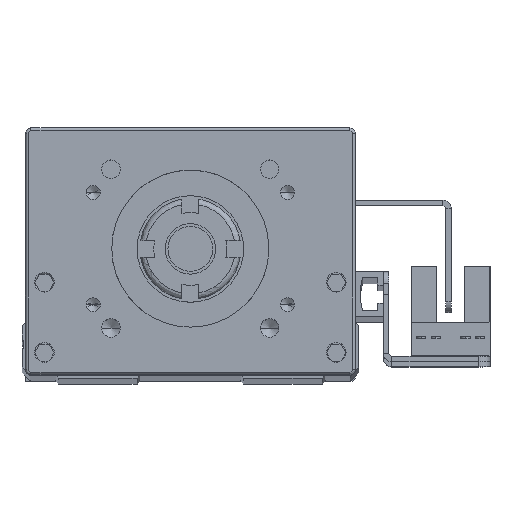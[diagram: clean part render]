
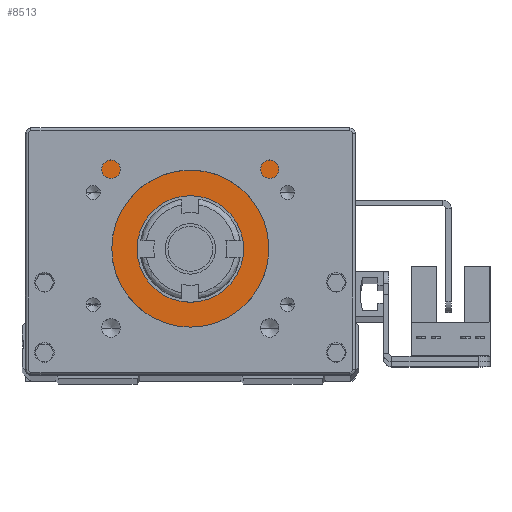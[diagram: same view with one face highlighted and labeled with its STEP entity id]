
A CAD part, top view. The second image highlights one B-rep face of the part: STEP entity #8513.
In plain terms, the highlighted planar face has unit normal (0, 0, 1).
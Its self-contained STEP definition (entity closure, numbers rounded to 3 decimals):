
#649 = LINE ( 'NONE', #52066, #49646 ) ;
#1393 = CARTESIAN_POINT ( 'NONE',  ( 52.335, 44.398, 318.5 ) ) ;
#1461 = EDGE_CURVE ( 'NONE', #10539, #36772, #36686, .T. ) ;
#1863 = DIRECTION ( 'NONE',  ( 0., 1., 0. ) ) ;
#2044 = ORIENTED_EDGE ( 'NONE', *, *, #5704, .F. ) ;
#2509 = FACE_OUTER_BOUND ( 'NONE', #26913, .T. ) ;
#2976 = LINE ( 'NONE', #52385, #49656 ) ;
#4525 = DIRECTION ( 'NONE',  ( -1., 0., 0. ) ) ;
#4591 = DIRECTION ( 'NONE',  ( 0., 0., 1. ) ) ;
#4670 = ORIENTED_EDGE ( 'NONE', *, *, #9805, .F. ) ;
#4742 = CIRCLE ( 'NONE', #45211, 9.5 ) ;
#5190 = DIRECTION ( 'NONE',  ( -1., 0., 0. ) ) ;
#5428 = VERTEX_POINT ( 'NONE', #40417 ) ;
#5527 = AXIS2_PLACEMENT_3D ( 'NONE', #59583, #17225, #59998 ) ;
#5704 = EDGE_CURVE ( 'NONE', #15843, #42215, #6033, .T. ) ;
#6033 = CIRCLE ( 'NONE', #29118, 9.5 ) ;
#6829 = DIRECTION ( 'NONE',  ( 0., 0., 1. ) ) ;
#7477 = AXIS2_PLACEMENT_3D ( 'NONE', #50338, #6829, #55022 ) ;
#7778 = EDGE_CURVE ( 'NONE', #18227, #46656, #16259, .T. ) ;
#8498 = CARTESIAN_POINT ( 'NONE',  ( 51.735, 12.398, 318.5 ) ) ;
#8513 = ADVANCED_FACE ( 'NONE', ( #23600, #2509 ), #60740, .F. ) ;
#9185 = CARTESIAN_POINT ( 'NONE',  ( 22.835, 23.898, 318.5 ) ) ;
#9338 = CARTESIAN_POINT ( 'NONE',  ( 32.335, 23.898, 318.5 ) ) ;
#9805 = EDGE_CURVE ( 'NONE', #38649, #5428, #48400, .T. ) ;
#9882 = ORIENTED_EDGE ( 'NONE', *, *, #34350, .T. ) ;
#10539 = VERTEX_POINT ( 'NONE', #45950 ) ;
#10772 = CARTESIAN_POINT ( 'NONE',  ( 52.335, 12.398, 318.5 ) ) ;
#10819 = CARTESIAN_POINT ( 'NONE',  ( 12.935, 12.398, 318.5 ) ) ;
#11377 = LINE ( 'NONE', #50419, #41500 ) ;
#11610 = ORIENTED_EDGE ( 'NONE', *, *, #31076, .T. ) ;
#12002 = LINE ( 'NONE', #48444, #24820 ) ;
#12902 = ORIENTED_EDGE ( 'NONE', *, *, #52766, .F. ) ;
#13657 = DIRECTION ( 'NONE',  ( 0., 1., 0. ) ) ;
#13875 = VECTOR ( 'NONE', #5190, 1000. ) ;
#14064 = VERTEX_POINT ( 'NONE', #36617 ) ;
#14204 = EDGE_CURVE ( 'NONE', #19430, #5428, #2976, .T. ) ;
#14991 = CARTESIAN_POINT ( 'NONE',  ( 11.335, 45.398, 318.5 ) ) ;
#15843 = VERTEX_POINT ( 'NONE', #9185 ) ;
#16259 = CIRCLE ( 'NONE', #55521, 1. ) ;
#16910 = CARTESIAN_POINT ( 'NONE',  ( 41.835, 23.898, 318.5 ) ) ;
#16995 = DIRECTION ( 'NONE',  ( 0., 0., -1. ) ) ;
#17225 = DIRECTION ( 'NONE',  ( 0., 0., -1. ) ) ;
#17831 = DIRECTION ( 'NONE',  ( -1., 0., 0. ) ) ;
#18151 = CARTESIAN_POINT ( 'NONE',  ( 12.335, 12.398, 318.5 ) ) ;
#18227 = VERTEX_POINT ( 'NONE', #14991 ) ;
#18706 = DIRECTION ( 'NONE',  ( 1., 0., 0. ) ) ;
#18725 = EDGE_CURVE ( 'NONE', #14064, #46656, #52848, .T. ) ;
#19430 = VERTEX_POINT ( 'NONE', #8498 ) ;
#20211 = EDGE_CURVE ( 'NONE', #36690, #14064, #12002, .T. ) ;
#21606 = DIRECTION ( 'NONE',  ( 0., 1., 0. ) ) ;
#22433 = VECTOR ( 'NONE', #33915, 1000. ) ;
#22547 = VERTEX_POINT ( 'NONE', #1393 ) ;
#22558 = DIRECTION ( 'NONE',  ( -1., 0., 0. ) ) ;
#23600 = FACE_BOUND ( 'NONE', #24552, .T. ) ;
#24067 = VERTEX_POINT ( 'NONE', #53055 ) ;
#24340 = CARTESIAN_POINT ( 'NONE',  ( 12.335, 12.398, 318.5 ) ) ;
#24489 = ORIENTED_EDGE ( 'NONE', *, *, #30352, .F. ) ;
#24552 = EDGE_LOOP ( 'NONE', ( #12902, #2044 ) ) ;
#24820 = VECTOR ( 'NONE', #28487, 1000. ) ;
#26461 = VECTOR ( 'NONE', #1863, 1000. ) ;
#26913 = EDGE_LOOP ( 'NONE', ( #38049, #37338, #24489, #28602, #4670, #11610, #52522, #9882, #52621, #62560, #42952, #60945 ) ) ;
#27206 = VECTOR ( 'NONE', #21606, 1000. ) ;
#27645 = CIRCLE ( 'NONE', #5527, 1. ) ;
#28157 = LINE ( 'NONE', #24340, #13875 ) ;
#28487 = DIRECTION ( 'NONE',  ( -1., 0., 0. ) ) ;
#28558 = AXIS2_PLACEMENT_3D ( 'NONE', #18151, #46735, #22558 ) ;
#28602 = ORIENTED_EDGE ( 'NONE', *, *, #14204, .T. ) ;
#29118 = AXIS2_PLACEMENT_3D ( 'NONE', #57905, #4591, #18706 ) ;
#30352 = EDGE_CURVE ( 'NONE', #19430, #36772, #28157, .T. ) ;
#31076 = EDGE_CURVE ( 'NONE', #38649, #22547, #39281, .T. ) ;
#33515 = CARTESIAN_POINT ( 'NONE',  ( 12.935, 0., 318.5 ) ) ;
#33915 = DIRECTION ( 'NONE',  ( 0., 1., 0. ) ) ;
#34350 = EDGE_CURVE ( 'NONE', #24067, #18227, #11377, .T. ) ;
#36617 = CARTESIAN_POINT ( 'NONE',  ( 12.335, 35.398, 318.5 ) ) ;
#36686 = CIRCLE ( 'NONE', #7477, 14. ) ;
#36690 = VERTEX_POINT ( 'NONE', #45387 ) ;
#36772 = VERTEX_POINT ( 'NONE', #55969 ) ;
#37338 = ORIENTED_EDGE ( 'NONE', *, *, #1461, .T. ) ;
#37416 = EDGE_CURVE ( 'NONE', #10539, #44721, #649, .T. ) ;
#38038 = EDGE_CURVE ( 'NONE', #44721, #36690, #51085, .T. ) ;
#38049 = ORIENTED_EDGE ( 'NONE', *, *, #37416, .F. ) ;
#38361 = EDGE_CURVE ( 'NONE', #22547, #24067, #27645, .T. ) ;
#38649 = VERTEX_POINT ( 'NONE', #57655 ) ;
#39281 = LINE ( 'NONE', #10772, #26461 ) ;
#40417 = CARTESIAN_POINT ( 'NONE',  ( 51.735, 35.398, 318.5 ) ) ;
#41500 = VECTOR ( 'NONE', #44935, 1000. ) ;
#41582 = CARTESIAN_POINT ( 'NONE',  ( 11.335, 44.398, 318.5 ) ) ;
#42215 = VERTEX_POINT ( 'NONE', #16910 ) ;
#42952 = ORIENTED_EDGE ( 'NONE', *, *, #20211, .F. ) ;
#43686 = CARTESIAN_POINT ( 'NONE',  ( 12.335, 44.398, 318.5 ) ) ;
#44721 = VERTEX_POINT ( 'NONE', #10819 ) ;
#44935 = DIRECTION ( 'NONE',  ( -1., 0., 0. ) ) ;
#45211 = AXIS2_PLACEMENT_3D ( 'NONE', #9338, #48442, #62017 ) ;
#45387 = CARTESIAN_POINT ( 'NONE',  ( 12.935, 35.398, 318.5 ) ) ;
#45950 = CARTESIAN_POINT ( 'NONE',  ( 24.351, 12.398, 318.5 ) ) ;
#46656 = VERTEX_POINT ( 'NONE', #43686 ) ;
#46735 = DIRECTION ( 'NONE',  ( 0., 0., -1. ) ) ;
#48400 = LINE ( 'NONE', #57845, #57480 ) ;
#48442 = DIRECTION ( 'NONE',  ( 0., 0., 1. ) ) ;
#48444 = CARTESIAN_POINT ( 'NONE',  ( 12.935, 35.398, 318.5 ) ) ;
#49646 = VECTOR ( 'NONE', #61171, 1000. ) ;
#49656 = VECTOR ( 'NONE', #13657, 1000. ) ;
#50338 = CARTESIAN_POINT ( 'NONE',  ( 32.335, 23.898, 318.5 ) ) ;
#50419 = CARTESIAN_POINT ( 'NONE',  ( 12.335, 45.398, 318.5 ) ) ;
#51085 = LINE ( 'NONE', #33515, #22433 ) ;
#52066 = CARTESIAN_POINT ( 'NONE',  ( 12.335, 12.398, 318.5 ) ) ;
#52385 = CARTESIAN_POINT ( 'NONE',  ( 51.735, 0., 318.5 ) ) ;
#52522 = ORIENTED_EDGE ( 'NONE', *, *, #38361, .T. ) ;
#52621 = ORIENTED_EDGE ( 'NONE', *, *, #7778, .T. ) ;
#52766 = EDGE_CURVE ( 'NONE', #42215, #15843, #4742, .T. ) ;
#52848 = LINE ( 'NONE', #53652, #27206 ) ;
#53055 = CARTESIAN_POINT ( 'NONE',  ( 53.335, 45.398, 318.5 ) ) ;
#53652 = CARTESIAN_POINT ( 'NONE',  ( 12.335, 12.398, 318.5 ) ) ;
#55022 = DIRECTION ( 'NONE',  ( -1., 0., 0. ) ) ;
#55521 = AXIS2_PLACEMENT_3D ( 'NONE', #41582, #16995, #17831 ) ;
#55969 = CARTESIAN_POINT ( 'NONE',  ( 40.32, 12.398, 318.5 ) ) ;
#57480 = VECTOR ( 'NONE', #4525, 1000. ) ;
#57655 = CARTESIAN_POINT ( 'NONE',  ( 52.335, 35.398, 318.5 ) ) ;
#57845 = CARTESIAN_POINT ( 'NONE',  ( 51.735, 35.398, 318.5 ) ) ;
#57905 = CARTESIAN_POINT ( 'NONE',  ( 32.335, 23.898, 318.5 ) ) ;
#59583 = CARTESIAN_POINT ( 'NONE',  ( 53.335, 44.398, 318.5 ) ) ;
#59998 = DIRECTION ( 'NONE',  ( -1., 0., 0. ) ) ;
#60740 = PLANE ( 'NONE',  #28558 ) ;
#60945 = ORIENTED_EDGE ( 'NONE', *, *, #38038, .F. ) ;
#61171 = DIRECTION ( 'NONE',  ( -1., 0., 0. ) ) ;
#62017 = DIRECTION ( 'NONE',  ( 1., 0., 0. ) ) ;
#62560 = ORIENTED_EDGE ( 'NONE', *, *, #18725, .F. ) ;
